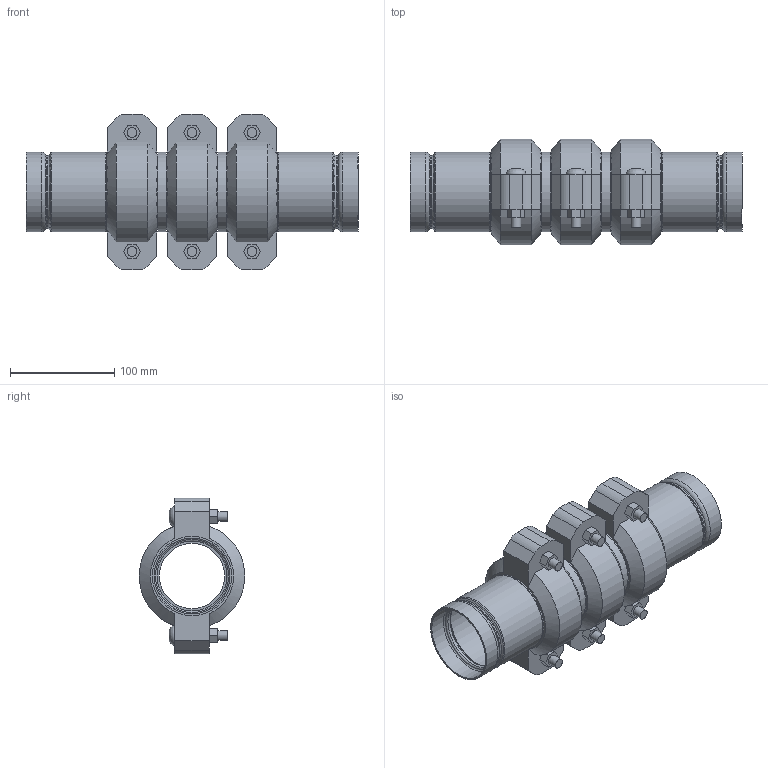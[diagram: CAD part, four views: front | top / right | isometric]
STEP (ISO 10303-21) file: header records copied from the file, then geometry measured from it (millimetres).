
FILE_DESCRIPTION(/* description */ ('VIC STRENGTHIN 100 EXPANSION JOINT 3 COUPLINGS COMPRESSED STYLE E155 (ST1)','CAx-IF Rec.Pracs.---Representation and Presentation of Product Manufacturing Information (PMI)---4.0---2014-10-13'),/* implementation_level */ '2;1');
FILE_NAME(/* name */ 'C:\Users\Vjadhav\AppData\Roaming\Autodesk\ApplicationPlugins\Victaulic.Temp\A21\Victaulic_SS-StrengThin 100_Expansion Joint_Compressed_3 Couplings_Style E155 (ST1)_02.5 (76.1) (65).stp',/* time_stamp */ '2021-07-23T12:30:14+05:00',/* author */ ('kkamble'),/* organization */ ('Victaulic'),/* preprocessor_version */ 'ST-DEVELOPER v17.2',/* originating_system */ 'Autodesk Inventor 2019',/* authorisation */ '');
FILE_SCHEMA (('AP242_MANAGED_MODEL_BASED_3D_ENGINEERING_MIM_LF { 1 0 10303 442 1 1 4 }'));
Length unit declared in the file: inch
Products named in the file (4): E155-02.5 (76.1); E494G-02.5 (76.1); Nipple-02.5 (76.1); 075-02.5 (76.1)
Assembly tree (7 placements, depth 2):
  E155-02.5 (76.1)
    E494G-02.5 (76.1)  x2
    Nipple-02.5 (76.1)  x2
    075-02.5 (76.1)  x3
Bounding box: 319.02 x 101.25 x 149.86 mm (x, y, z)
Volume: 892200.6 mm3; surface area: 291427.1 mm2
Topology: 7 solids, 13 shells, 251 faces, 675 edges, 478 vertices
Faces by surface type: plane 126, cylinder 71, torus 32, cone 16, bspline 6
Full cylindrical faces by diameter (mm): 9.525 x12, 11.43 x6, 62.713 x2, 67.158 x2, 69.063 x2, 70.358 x2, 72.263 x6, 73 x6, 76.2 x15
Entity records: 3665 total; most frequent: CARTESIAN_POINT 671, DIRECTION 641, ORIENTED_EDGE 544, EDGE_CURVE 272, AXIS2_PLACEMENT_3D 271, VERTEX_POINT 195, CIRCLE 163, EDGE_LOOP 121
